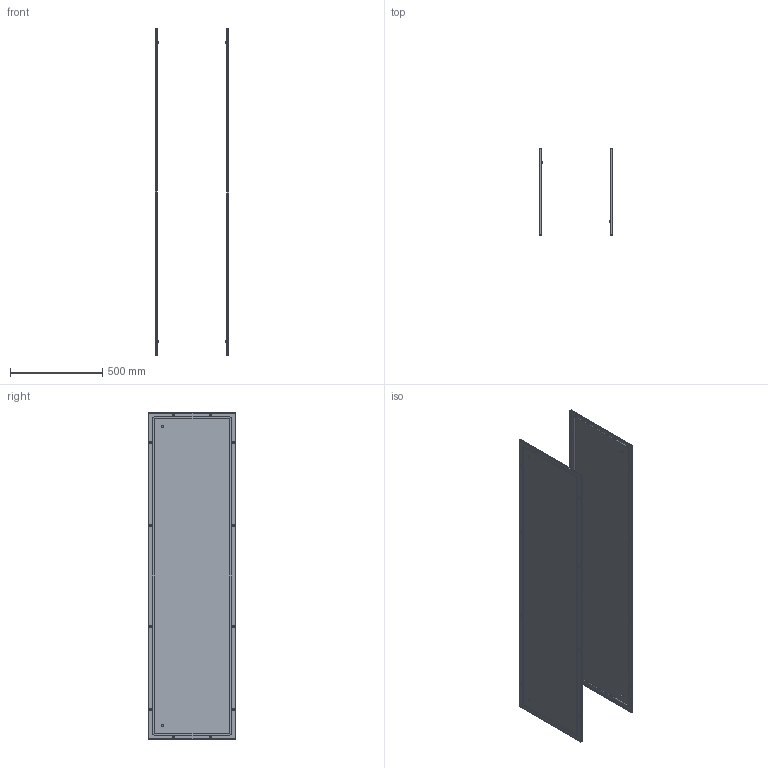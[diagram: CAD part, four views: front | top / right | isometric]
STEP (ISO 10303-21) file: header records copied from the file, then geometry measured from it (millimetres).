
FILE_DESCRIPTION(('STEP AP203'), '1');
FILE_NAME('3303 Áîêîâàÿ ïàíåëü ÑÁ', '', ('UNSPECIFIED'), ('UNSPECIFIED'), 'C3D Converter', 'C3D Toolkit', '');
FILE_SCHEMA(('CONFIG_CONTROL_DESIGN'));
Length unit declared in the file: millimetre
Products named in the file (5): 3303.180.50 СБ; 3302; 3211
Assembly tree (17 placements, depth 3):
  3303.180.50 СБ
    3302  x2
      3211
      (unnamed)
      (unnamed)
Bounding box: 400 x 473 x 1771 mm (x, y, z)
Volume: 2961712 mm3; surface area: 3804364.8 mm2
Topology: 32 solids, 32 shells, 938 faces, 2424 edges, 1680 vertices
Faces by surface type: plane 646, cylinder 132, cone 100, torus 60
Full cylindrical faces by diameter (mm): 5 x24, 6 x28, 9.2 x24, 11.5 x8
Entity records: 6101 total; most frequent: CARTESIAN_POINT 1737, DIRECTION 802, ORIENTED_EDGE 584, AXIS2_PLACEMENT_3D 327, EDGE_CURVE 292, EDGE_LOOP 276, VERTEX_POINT 220, ADVANCED_FACE 165
